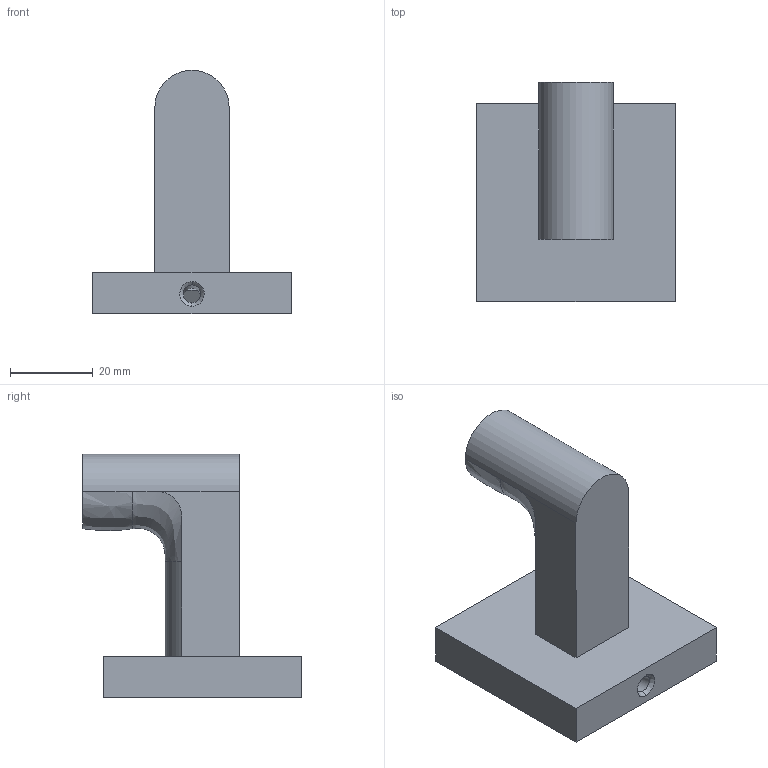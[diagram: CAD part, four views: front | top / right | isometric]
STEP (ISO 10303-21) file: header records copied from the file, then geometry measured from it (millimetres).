
FILE_DESCRIPTION(/* description */ (''),/* implementation_level */ '2;1');
FILE_NAME(/* name */ 'c:\worker\convert-fusion-r05\tmp\job-1\13\output\files\eb6318bc-d688-4ed2-84ad-c408bdb9b3b6\8e673894-3a49-4fd9-9067-7f12dd9b63c0.stp',/* time_stamp */ '2019-07-21T21:16:52+00:00',/* author */ (''),/* organization */ (''),/* preprocessor_version */ 'ST-DEVELOPER v18',/* originating_system */ 'Autodesk Translation Framework v8.2.0.1029',/* authorisation */ '');
FILE_SCHEMA (('AUTOMOTIVE_DESIGN { 1 0 10303 214 3 1 1 }'));
Length unit declared in the file: millimetre
Products named in the file (1): !TB50110
Bounding box: 48 x 53 x 59 mm (x, y, z)
Volume: 31949.7 mm3; surface area: 17152 mm2
Topology: 5 solids, 5 shells, 128 faces, 355 edges, 240 vertices
Faces by surface type: plane 85, cylinder 37, bspline 5, cone 1
Full cylindrical faces by diameter (mm): 4.2 x1, 5 x1, 5.2 x1, 19 x1
Entity records: 7091 total; most frequent: CARTESIAN_POINT 3693, ORIENTED_EDGE 710, DIRECTION 687, EDGE_CURVE 355, LINE 241, VECTOR 241, VERTEX_POINT 240, AXIS2_PLACEMENT_3D 223
